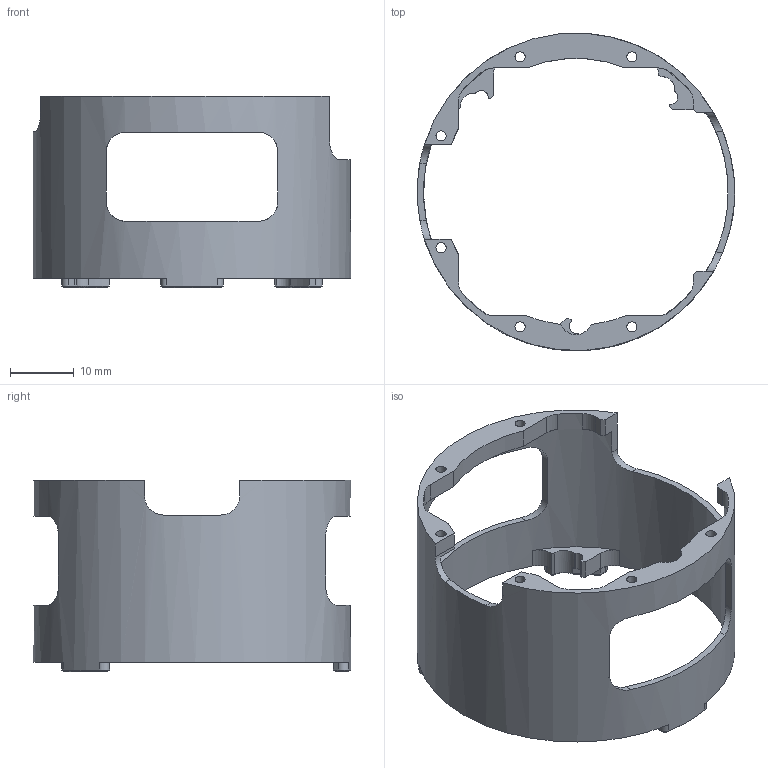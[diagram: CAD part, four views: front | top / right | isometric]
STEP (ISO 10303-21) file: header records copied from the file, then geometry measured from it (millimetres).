
FILE_DESCRIPTION(/* description */ (''),/* implementation_level */ '2;1');
FILE_NAME(/* name */ 'P181085A.stp',/* time_stamp */ '2021-02-01T12:28:24+01:00',/* author */ (''),/* organization */ (''),/* preprocessor_version */ 'ST-DEVELOPER v18.1',/* originating_system */ 'SIEMENS PLM Software NX 1957',/* authorisation */ '');
FILE_SCHEMA (('AUTOMOTIVE_DESIGN { 1 0 10303 214 3 1 1 1 }'));
Length unit declared in the file: millimetre
Products named in the file (1): P181085A
Bounding box: 49.99 x 49.96 x 30.2 mm (x, y, z)
Volume: 4047.3 mm3; surface area: 7767.1 mm2
Topology: 1 solids, 1 shells, 143 faces, 403 edges, 260 vertices
Faces by surface type: cylinder 69, plane 56, cone 18
Full cylindrical faces by diameter (mm): 1.6 x6, 48 x1, 50 x1
Entity records: 4981 total; most frequent: CARTESIAN_POINT 1194, DIRECTION 810, ORIENTED_EDGE 786, EDGE_CURVE 393, AXIS2_PLACEMENT_3D 311, VERTEX_POINT 258, LINE 188, VECTOR 188
